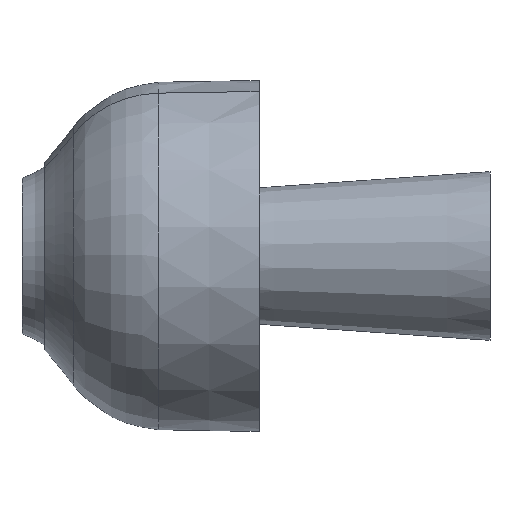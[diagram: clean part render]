
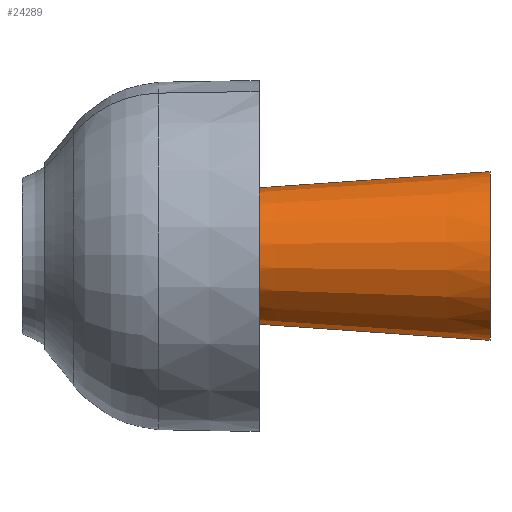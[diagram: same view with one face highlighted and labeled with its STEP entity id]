
A CAD part, left-side view. The second image highlights one B-rep face of the part: STEP entity #24289.
In plain terms, the highlighted conical face has half-angle 4 degrees and reference radius 67.923 mm.
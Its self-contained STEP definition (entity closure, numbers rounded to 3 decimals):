
#336 = EDGE_CURVE ( 'NONE', #22568, #5823, #18796, .T. ) ;
#464 = CARTESIAN_POINT ( 'NONE',  ( 0., 265.659, 0. ) ) ;
#978 = CARTESIAN_POINT ( 'NONE',  ( -3.636, 259.536, 68.255 ) ) ;
#1798 = DIRECTION ( 'NONE',  ( 0., -1., 0. ) ) ;
#1877 = EDGE_CURVE ( 'NONE', #17914, #5823, #6756, .T. ) ;
#1976 = EDGE_CURVE ( 'NONE', #29271, #16184, #12953, .T. ) ;
#2610 = VERTEX_POINT ( 'NONE', #22617 ) ;
#3122 = CARTESIAN_POINT ( 'NONE',  ( -1.94, 260.546, 68.254 ) ) ;
#3287 = CARTESIAN_POINT ( 'NONE',  ( 0., 260.897, 68.256 ) ) ;
#3341 = AXIS2_PLACEMENT_3D ( 'NONE', #30966, #8388, #26029 ) ;
#3459 = CARTESIAN_POINT ( 'NONE',  ( -4.143, 259.027, 68.262 ) ) ;
#3622 = CARTESIAN_POINT ( 'NONE',  ( -3.356, 251.043, 68.864 ) ) ;
#4328 = LINE ( 'NONE', #27228, #8034 ) ;
#4810 = DIRECTION ( 'NONE',  ( 0., -0.998, 0.07 ) ) ;
#5426 = CARTESIAN_POINT ( 'NONE',  ( -1.427, 250.098, 68.998 ) ) ;
#5759 = CARTESIAN_POINT ( 'NONE',  ( -1.423, 260.712, 68.255 ) ) ;
#5823 = VERTEX_POINT ( 'NONE', #31824 ) ;
#6107 = CARTESIAN_POINT ( 'NONE',  ( -4.371, 258.751, 68.267 ) ) ;
#6271 = EDGE_CURVE ( 'NONE', #22568, #2610, #12806, .T. ) ;
#6505 = AXIS2_PLACEMENT_3D ( 'NONE', #464, #25181, #25837 ) ;
#6756 = B_SPLINE_CURVE_WITH_KNOTS ( 'NONE', 3,
 ( #25859, #18620, #10689, #5426, #15482, #11029, #20435, #3622, #30469, #26032, #8055, #18292, #17948, #13499, #10362, #28177, #31123, #27999, #28340, #28684, #16143, #18125, #15807, #26195, #20761, #8232, #15644, #6107, #3459, #978, #10871, #10523, #8555, #3122, #25691, #5759, #7898, #13662, #25530, #3287 ),
 .UNSPECIFIED., .F., .F.,
 ( 4, 2, 2, 2, 2, 2, 2, 2, 2, 2, 2, 2, 2, 2, 2, 2, 2, 2, 2, 4 ),
 ( 0.03, 0.031, 0.032, 0.033, 0.035, 0.036, 0.037, 0.038, 0.038, 0.039, 0.04, 0.041, 0.041, 0.042, 0.043, 0.044, 0.045, 0.046, 0.046, 0.047 ),
 .UNSPECIFIED. ) ;
#7898 = CARTESIAN_POINT ( 'NONE',  ( -1.249, 260.756, 68.255 ) ) ;
#8034 = VECTOR ( 'NONE', #4810, 1000. ) ;
#8055 = CARTESIAN_POINT ( 'NONE',  ( -4.375, 252.057, 68.736 ) ) ;
#8232 = CARTESIAN_POINT ( 'NONE',  ( -4.765, 258.144, 68.283 ) ) ;
#8388 = DIRECTION ( 'NONE',  ( 0., -1., 0. ) ) ;
#8555 = CARTESIAN_POINT ( 'NONE',  ( -2.44, 260.338, 68.253 ) ) ;
#10027 = FACE_OUTER_BOUND ( 'NONE', #18730, .T. ) ;
#10362 = CARTESIAN_POINT ( 'NONE',  ( -5.324, 253.974, 68.534 ) ) ;
#10523 = CARTESIAN_POINT ( 'NONE',  ( -2.756, 260.168, 68.252 ) ) ;
#10689 = CARTESIAN_POINT ( 'NONE',  ( -0.716, 249.958, 69.018 ) ) ;
#10871 = CARTESIAN_POINT ( 'NONE',  ( -3.353, 259.769, 68.254 ) ) ;
#11029 = CARTESIAN_POINT ( 'NONE',  ( -2.434, 250.474, 68.943 ) ) ;
#12806 = CIRCLE ( 'NONE', #3341, 67.923 ) ;
#12953 = CIRCLE ( 'NONE', #22950, 86.5 ) ;
#13499 = CARTESIAN_POINT ( 'NONE',  ( -5.22, 253.633, 68.566 ) ) ;
#13662 = CARTESIAN_POINT ( 'NONE',  ( -0.722, 260.861, 68.256 ) ) ;
#13669 = DIRECTION ( 'NONE',  ( 0., -0.998, 0.07 ) ) ;
#14499 = ORIENTED_EDGE ( 'NONE', *, *, #1877, .T. ) ;
#15482 = CARTESIAN_POINT ( 'NONE',  ( -1.772, 250.203, 68.982 ) ) ;
#15644 = CARTESIAN_POINT ( 'NONE',  ( -4.672, 258.3, 68.278 ) ) ;
#15807 = CARTESIAN_POINT ( 'NONE',  ( -5.218, 257.168, 68.318 ) ) ;
#16143 = CARTESIAN_POINT ( 'NONE',  ( -5.465, 256.112, 68.373 ) ) ;
#16184 = VERTEX_POINT ( 'NONE', #18241 ) ;
#16638 = DIRECTION ( 'NONE',  ( 0., 0., -1. ) ) ;
#17914 = VERTEX_POINT ( 'NONE', #20208 ) ;
#17948 = CARTESIAN_POINT ( 'NONE',  ( -4.946, 252.971, 68.633 ) ) ;
#18125 = CARTESIAN_POINT ( 'NONE',  ( -5.323, 256.823, 68.334 ) ) ;
#18241 = CARTESIAN_POINT ( 'NONE',  ( 0., 0., -86.5 ) ) ;
#18292 = CARTESIAN_POINT ( 'NONE',  ( -4.773, 252.65, 68.668 ) ) ;
#18620 = CARTESIAN_POINT ( 'NONE',  ( -0.359, 249.924, 69.024 ) ) ;
#18730 = EDGE_LOOP ( 'NONE', ( #24665, #28662, #27683, #24564, #29131, #14499 ) ) ;
#18796 = LINE ( 'NONE', #31463, #25277 ) ;
#20208 = CARTESIAN_POINT ( 'NONE',  ( 0., 249.924, 69.024 ) ) ;
#20435 = CARTESIAN_POINT ( 'NONE',  ( -2.755, 250.644, 68.919 ) ) ;
#20761 = CARTESIAN_POINT ( 'NONE',  ( -4.935, 257.826, 68.293 ) ) ;
#21008 = CARTESIAN_POINT ( 'NONE',  ( 0., 0., 86.5 ) ) ;
#22568 = VERTEX_POINT ( 'NONE', #28965 ) ;
#22617 = CARTESIAN_POINT ( 'NONE',  ( 0., 265.659, -67.923 ) ) ;
#22950 = AXIS2_PLACEMENT_3D ( 'NONE', #29477, #1798, #16638 ) ;
#23477 = DIRECTION ( 'NONE',  ( 0., -0.998, -0.07 ) ) ;
#23625 = EDGE_CURVE ( 'NONE', #17914, #29271, #4328, .T. ) ;
#23847 = VECTOR ( 'NONE', #23477, 1000. ) ;
#24289 = ADVANCED_FACE ( 'NONE', ( #10027 ), #26491, .T. ) ;
#24564 = ORIENTED_EDGE ( 'NONE', *, *, #1976, .F. ) ;
#24598 = EDGE_CURVE ( 'NONE', #2610, #16184, #26120, .T. ) ;
#24665 = ORIENTED_EDGE ( 'NONE', *, *, #336, .F. ) ;
#25181 = DIRECTION ( 'NONE',  ( 0., -1., 0. ) ) ;
#25277 = VECTOR ( 'NONE', #13669, 1000. ) ;
#25530 = CARTESIAN_POINT ( 'NONE',  ( -0.362, 260.897, 68.256 ) ) ;
#25691 = CARTESIAN_POINT ( 'NONE',  ( -1.768, 260.607, 68.254 ) ) ;
#25837 = DIRECTION ( 'NONE',  ( 0., 0., -1. ) ) ;
#25859 = CARTESIAN_POINT ( 'NONE',  ( 0., 249.924, 69.024 ) ) ;
#26029 = DIRECTION ( 'NONE',  ( 0., 0., -1. ) ) ;
#26032 = CARTESIAN_POINT ( 'NONE',  ( -4.148, 251.781, 68.769 ) ) ;
#26120 = LINE ( 'NONE', #28431, #23847 ) ;
#26195 = CARTESIAN_POINT ( 'NONE',  ( -5.012, 257.664, 68.299 ) ) ;
#26491 = CONICAL_SURFACE ( 'NONE', #6505, 67.923, 0.07 ) ;
#27228 = CARTESIAN_POINT ( 'NONE',  ( 0., 265.659, 67.923 ) ) ;
#27683 = ORIENTED_EDGE ( 'NONE', *, *, #24598, .T. ) ;
#27999 = CARTESIAN_POINT ( 'NONE',  ( -5.491, 255.04, 68.446 ) ) ;
#28177 = CARTESIAN_POINT ( 'NONE',  ( -5.43, 254.502, 68.489 ) ) ;
#28340 = CARTESIAN_POINT ( 'NONE',  ( -5.5, 255.219, 68.433 ) ) ;
#28431 = CARTESIAN_POINT ( 'NONE',  ( 0., 265.659, -67.923 ) ) ;
#28662 = ORIENTED_EDGE ( 'NONE', *, *, #6271, .T. ) ;
#28684 = CARTESIAN_POINT ( 'NONE',  ( -5.5, 255.756, 68.395 ) ) ;
#28965 = CARTESIAN_POINT ( 'NONE',  ( 0., 265.659, 67.923 ) ) ;
#29131 = ORIENTED_EDGE ( 'NONE', *, *, #23625, .F. ) ;
#29271 = VERTEX_POINT ( 'NONE', #21008 ) ;
#29477 = CARTESIAN_POINT ( 'NONE',  ( 0., 0., 0. ) ) ;
#30469 = CARTESIAN_POINT ( 'NONE',  ( -3.637, 251.272, 68.834 ) ) ;
#30966 = CARTESIAN_POINT ( 'NONE',  ( 0., 265.659, 0. ) ) ;
#31123 = CARTESIAN_POINT ( 'NONE',  ( -5.456, 254.682, 68.474 ) ) ;
#31463 = CARTESIAN_POINT ( 'NONE',  ( 0., 265.659, 67.923 ) ) ;
#31824 = CARTESIAN_POINT ( 'NONE',  ( 0., 260.897, 68.256 ) ) ;
